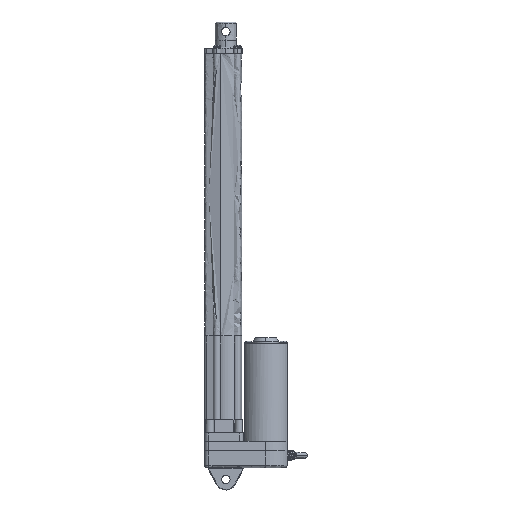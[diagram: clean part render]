
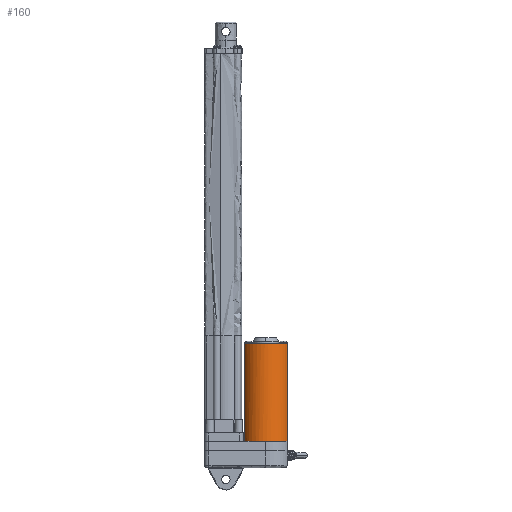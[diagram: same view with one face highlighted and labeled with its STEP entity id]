
A CAD part, top view. The second image highlights one B-rep face of the part: STEP entity #160.
In plain terms, the highlighted free-form (B-spline) face has degree [1, 2] with [2, 9] control points.
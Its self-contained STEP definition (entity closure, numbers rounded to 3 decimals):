
#160=ADVANCED_FACE('',(#861),#10811,.T.);
#861=FACE_OUTER_BOUND('',#1568,.T.);
#1568=EDGE_LOOP('',(#2595,#2596,#2597,#2598,#2599));
#2595=ORIENTED_EDGE('',*,*,#6023,.F.);
#2596=ORIENTED_EDGE('',*,*,#6017,.F.);
#2597=ORIENTED_EDGE('',*,*,#6022,.F.);
#2598=ORIENTED_EDGE('',*,*,#6019,.F.);
#2599=ORIENTED_EDGE('',*,*,#6021,.F.);
#6017=EDGE_CURVE('',#9630,#9631,#7663,.T.);
#6019=EDGE_CURVE('',#9633,#9632,#7665,.T.);
#6021=EDGE_CURVE('',#9634,#9633,#8873,.T.);
#6022=EDGE_CURVE('',#9632,#9630,#8874,.T.);
#6023=EDGE_CURVE('',#9631,#9634,#8875,.T.);
#7663=B_SPLINE_CURVE_WITH_KNOTS('',1,(#23949,#23950),.UNSPECIFIED.,.F.,
 .F.,(2,2),(-91.5,0.),.UNSPECIFIED.);
#7665=B_SPLINE_CURVE_WITH_KNOTS('',1,(#23953,#23954),.UNSPECIFIED.,.F.,
 .F.,(2,2),(-91.5,0.),.UNSPECIFIED.);
#8873=(
BOUNDED_CURVE()
B_SPLINE_CURVE(2,(#23957,#23958,#23959),.UNSPECIFIED.,.F.,.F.)
B_SPLINE_CURVE_WITH_KNOTS((3,3),(0.,27.221),.UNSPECIFIED.)
CURVE()
GEOMETRIC_REPRESENTATION_ITEM()
RATIONAL_B_SPLINE_CURVE((1.,0.823,1.))
REPRESENTATION_ITEM('')
);
#8874=(
BOUNDED_CURVE()
B_SPLINE_CURVE(2,(#23960,#23961,#23962,#23963,#23964),.UNSPECIFIED.,.F.,
 .F.)
B_SPLINE_CURVE_WITH_KNOTS((3,2,3),(0.,24.636,49.271),
 .UNSPECIFIED.)
CURVE()
GEOMETRIC_REPRESENTATION_ITEM()
RATIONAL_B_SPLINE_CURVE((1.,0.854,1.,0.854,1.))
REPRESENTATION_ITEM('')
);
#8875=(
BOUNDED_CURVE()
B_SPLINE_CURVE(2,(#23965,#23966,#23967),.UNSPECIFIED.,.F.,.F.)
B_SPLINE_CURVE_WITH_KNOTS((3,3),(0.,22.05),.UNSPECIFIED.)
CURVE()
GEOMETRIC_REPRESENTATION_ITEM()
RATIONAL_B_SPLINE_CURVE((1.,0.882,1.))
REPRESENTATION_ITEM('')
);
#9630=VERTEX_POINT('',#21195);
#9631=VERTEX_POINT('',#21196);
#9632=VERTEX_POINT('',#21197);
#9633=VERTEX_POINT('',#21198);
#9634=VERTEX_POINT('',#21199);
#10811=(
BOUNDED_SURFACE()
B_SPLINE_SURFACE(1,2,((#13229,#13230,#13231,#13232,#13233,#13234,#13235,
#13236,#13237),(#13238,#13239,#13240,#13241,#13242,#13243,#13244,#13245,
#13246)),.UNSPECIFIED.,.F.,.F.,.F.)
B_SPLINE_SURFACE_WITH_KNOTS((2,2),(3,2,2,2,3),(0.,109.8),(0.,
35.343,70.686,106.029,141.372),
 .UNSPECIFIED.)
GEOMETRIC_REPRESENTATION_ITEM()
RATIONAL_B_SPLINE_SURFACE(((1.,0.707,1.,0.707,1.,
0.707,1.,0.707,1.),(1.,0.707,1.,0.707,
1.,0.707,1.,0.707,1.)))
REPRESENTATION_ITEM('')
SURFACE()
);
#13229=CARTESIAN_POINT('',(18.01,149.675,-22.5));
#13230=CARTESIAN_POINT('',(40.51,149.675,-22.5));
#13231=CARTESIAN_POINT('',(40.51,149.675,0.));
#13232=CARTESIAN_POINT('',(40.51,149.675,22.5));
#13233=CARTESIAN_POINT('',(18.01,149.675,22.5));
#13234=CARTESIAN_POINT('',(-4.49,149.675,22.5));
#13235=CARTESIAN_POINT('',(-4.49,149.675,0.));
#13236=CARTESIAN_POINT('',(-4.49,149.675,-22.5));
#13237=CARTESIAN_POINT('',(18.01,149.675,-22.5));
#13238=CARTESIAN_POINT('',(18.01,39.875,-22.5));
#13239=CARTESIAN_POINT('',(40.51,39.875,-22.5));
#13240=CARTESIAN_POINT('',(40.51,39.875,0.));
#13241=CARTESIAN_POINT('',(40.51,39.875,22.5));
#13242=CARTESIAN_POINT('',(18.01,39.875,22.5));
#13243=CARTESIAN_POINT('',(-4.49,39.875,22.5));
#13244=CARTESIAN_POINT('',(-4.49,39.875,0.));
#13245=CARTESIAN_POINT('',(-4.49,39.875,-22.5));
#13246=CARTESIAN_POINT('',(18.01,39.875,-22.5));
#21195=CARTESIAN_POINT('',(-1.99,140.525,10.308));
#21196=CARTESIAN_POINT('',(-1.99,49.025,10.308));
#21197=CARTESIAN_POINT('',(38.01,140.525,10.308));
#21198=CARTESIAN_POINT('',(38.01,49.025,10.308));
#21199=CARTESIAN_POINT('',(15.431,49.025,22.352));
#23949=CARTESIAN_POINT('',(-1.99,140.525,10.308));
#23950=CARTESIAN_POINT('',(-1.99,49.025,10.308));
#23953=CARTESIAN_POINT('',(38.01,49.025,10.308));
#23954=CARTESIAN_POINT('',(38.01,140.525,10.308));
#23957=CARTESIAN_POINT('',(15.431,49.025,22.352));
#23958=CARTESIAN_POINT('',(30.884,49.025,24.135));
#23959=CARTESIAN_POINT('',(38.01,49.025,10.308));
#23960=CARTESIAN_POINT('',(38.01,140.525,10.308));
#23961=CARTESIAN_POINT('',(31.727,140.525,22.5));
#23962=CARTESIAN_POINT('',(18.01,140.525,22.5));
#23963=CARTESIAN_POINT('',(4.294,140.525,22.5));
#23964=CARTESIAN_POINT('',(-1.99,140.525,10.308));
#23965=CARTESIAN_POINT('',(-1.99,49.025,10.308));
#23966=CARTESIAN_POINT('',(3.509,49.025,20.976));
#23967=CARTESIAN_POINT('',(15.431,49.025,22.352));
